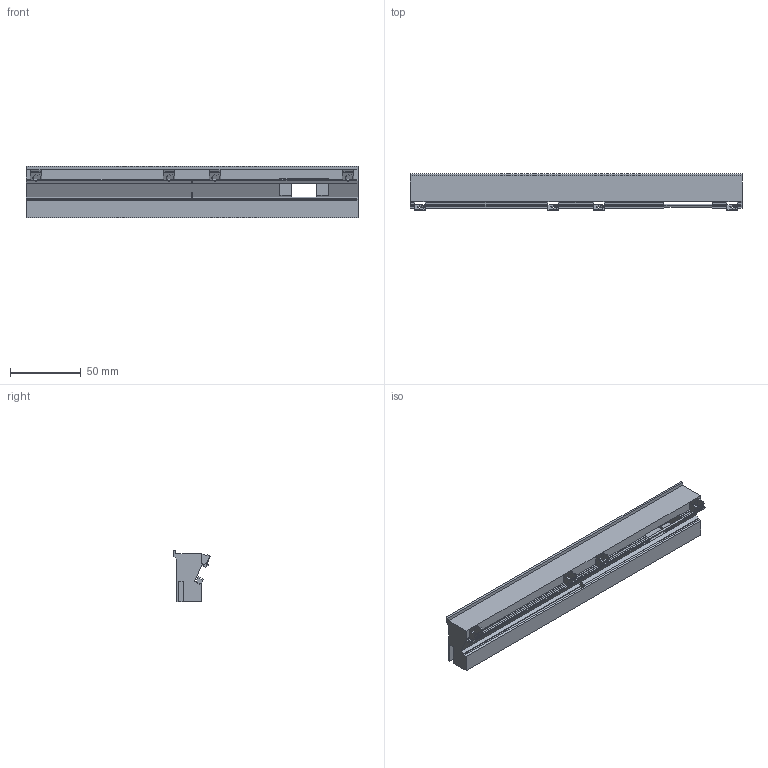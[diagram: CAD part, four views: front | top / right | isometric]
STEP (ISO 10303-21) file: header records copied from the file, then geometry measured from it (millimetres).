
FILE_DESCRIPTION(('Open CASCADE Model'),'2;1');
FILE_NAME('SOLID','2026-10-21T18:57:16',('Author'),('Open CASCADE'), 'Open CASCADE STEP processor 8.0','build123d','Unknown');
FILE_SCHEMA(('AUTOMOTIVE_DESIGN { 1 0 10303 214 1 1 1 1 }'));
Products named in the file (1): SOLID
Bounding box: 234 x 25.92 x 36.5 mm (x, y, z)
Volume: 128668.7 mm3; surface area: 33150.3 mm2
Topology: 1 solids, 1 shells, 634 faces, 1805 edges, 1158 vertices
Faces by surface type: plane 358, cylinder 276
Entity records: 48599 total; most frequent: CARTESIAN_POINT 14210, DIRECTION 6128, ORIENTED_EDGE 3610, PCURVE 3610, DEFINITIONAL_REPRESENTATION 3610, LINE 2851, VECTOR 2851, EDGE_CURVE 1805
